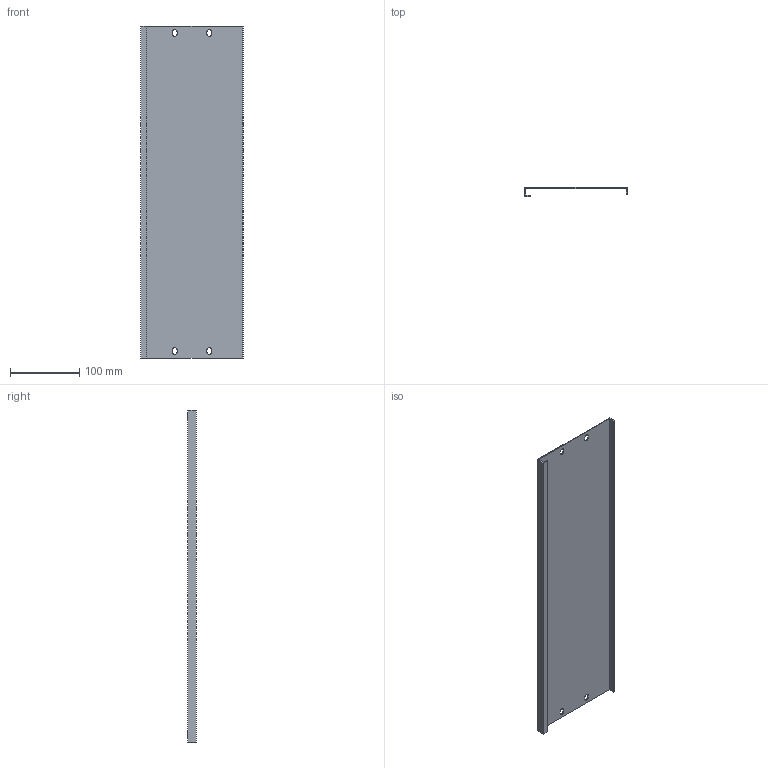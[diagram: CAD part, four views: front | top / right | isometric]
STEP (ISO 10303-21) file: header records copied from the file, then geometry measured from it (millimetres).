
FILE_DESCRIPTION (( 'STEP AP214' ), '1' );
FILE_NAME ('FO-00-PVS-015-060 Ïëàñòðîí ãëóõîé âíóòðåííèé 150õ600.STEP', '2025-08-26T10:34:34', ( '' ), ( '' ), 'SwSTEP 2.0', 'SolidWorks 2023', '' );
FILE_SCHEMA (( 'AUTOMOTIVE_DESIGN' ));
Length unit declared in the file: millimetre
Products named in the file (1): FO-00-PVS-015-060 Пластрон глухой внутренний 150х600
Bounding box: 148 x 12.5 x 479 mm (x, y, z)
Volume: 124662.1 mm3; surface area: 168343.1 mm2
Topology: 1 solids, 1 shells, 42 faces, 120 edges, 80 vertices
Faces by surface type: plane 30, cylinder 12
Entity records: 1407 total; most frequent: CARTESIAN_POINT 243, ORIENTED_EDGE 240, DIRECTION 230, EDGE_CURVE 120, VECTOR 96, LINE 96, VERTEX_POINT 80, AXIS2_PLACEMENT_3D 67
